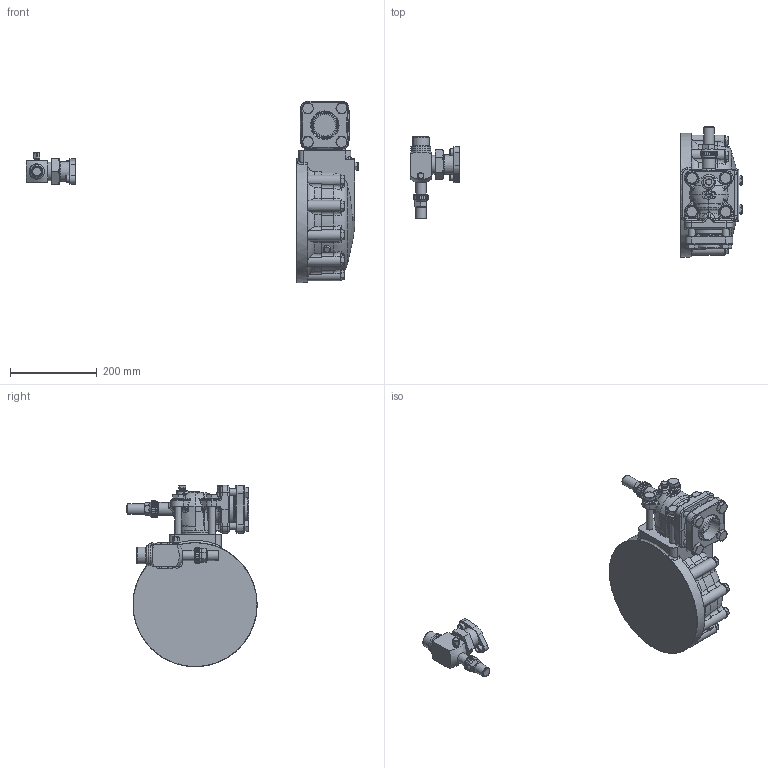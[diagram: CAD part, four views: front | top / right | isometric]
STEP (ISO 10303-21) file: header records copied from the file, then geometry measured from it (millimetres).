
FILE_DESCRIPTION(/* description */ (''),/* implementation_level */ '2;1');
FILE_NAME(/* name */ '6JE22-25-6HE25-28-6GE30-34.stp',/* time_stamp */ '2024-06-03T15:47:11+02:00',/* author */ (''),/* organization */ (''),/* preprocessor_version */ 'ST-DEVELOPER v19.4',/* originating_system */ 'SIEMENS PLM Software NX2212.8901',/* authorisation */ '');
FILE_SCHEMA (('AUTOMOTIVE_DESIGN { 1 0 10303 214 3 1 1 1 }'));
Products named in the file (5): 200079248ugm001_01; 200035458ugm001_00; 200034495ugm001_02; 200020491ugm001_01; 200052476ugm001_03
Assembly tree (4 placements, depth 2):
  200052476ugm001_03
    200020491ugm001_01
    200034495ugm001_02
    200035458ugm001_00
    200079248ugm001_01
Bounding box: 765.35 x 300.15 x 418 mm (x, y, z)
Volume: 9130703.6 mm3; surface area: 494277.5 mm2
Topology: 4 solids, 7 shells, 2670 faces, 7290 edges, 4742 vertices
Faces by surface type: plane 1355, bspline 421, cylinder 295, extrusion 278, cone 222, torus 87, sphere 12
Full cylindrical faces by diameter (mm): 8 x2, 9 x1, 10.72 x1, 11 x3, 13.546 x4, 13.7 x1, 13.716 x1, 16 x10, 17 x4, 23.9 x1, 24 x2, 27 x1, 31 x1, 33 x1, 34 x4, 35.2 x1, 36 x1, 38.5 x1, 41.5 x1, 43 x1, 43.1 x1, 44 x1, 44.5 x1, 44.7 x1, 45 x2, 45.13 x1, 45.5 x1, 46 x3, 48 x1, 48.3 x1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
Entity records: 118100 total; most frequent: CARTESIAN_POINT 53214, ORIENTED_EDGE 14024, DIRECTION 8839, EDGE_CURVE 7012, VERTEX_POINT 4677, B_SPLINE_CURVE_WITH_KNOTS 3806, AXIS2_PLACEMENT_3D 3106, EDGE_LOOP 3000
